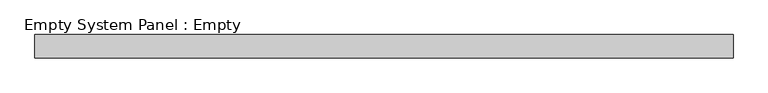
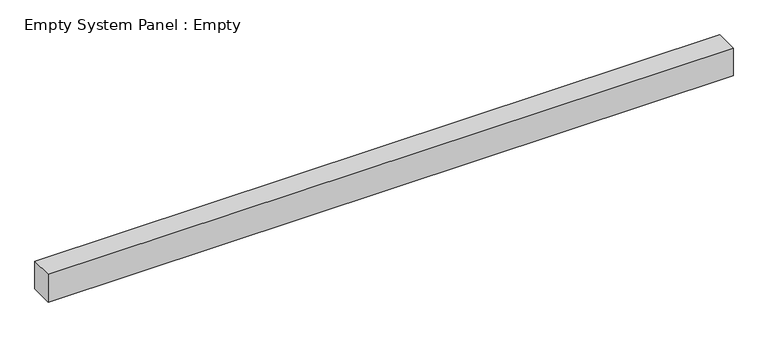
"""IFC4 building model written with IfcOpenShell, lengths in millimetres: plate geometry, Empty System Panel : Empty."""

import ifcopenshell
import ifcopenshell.guid

model = None  # the IFC model being written
_history = None  # IfcOwnerHistory: only IFC2X3 demands one
_inside = {}  # id of a spatial element -> (the spatial element, [elements in it])
_under = {}  # id of a project, library or spatial element -> (it, [spatial elements below it])
_declared = {}  # id of a project -> (the project, [libraries it declares])
_typed = {}  # id of a type object -> (the type object, [elements of that type])
_made_of = {}  # id of a material, layer set ... -> (it, [elements and type objects made of it])


def new_model(schema):
    """Start an empty IFC model of exactly this schema.

    Asked for "IFC4X3", IfcOpenShell would pick the latest addendum, in which some entities
    have other attributes; the version numbers below select the first issue.
    IFC2X3 requires an IfcOwnerHistory on every rooted entity: one is made here for all.
    """
    global model, _history
    if schema == "IFC4X3":
        model = ifcopenshell.file(schema_version=(4, 3, 0, 0))
    else:
        model = ifcopenshell.file(schema=schema)
    _inside.clear()
    _under.clear()
    _declared.clear()
    _typed.clear()
    _made_of.clear()
    _history = None
    if model.schema == "IFC2X3":
        org = make("IfcOrganization", Name="unknown")
        user = make(
            "IfcPersonAndOrganization",
            ThePerson=make("IfcPerson", FamilyName="unknown"),
            TheOrganization=org,
        )
        app = make(
            "IfcApplication",
            ApplicationDeveloper=org,
            Version="unknown",
            ApplicationFullName="unknown",
            ApplicationIdentifier="unknown",
        )
        _history = make(
            "IfcOwnerHistory",
            OwningUser=user,
            OwningApplication=app,
            ChangeAction="ADDED",
            CreationDate=0,
        )
    return model


def make(cls, **values):
    """One entity of the class cls with the attributes given. An attribute that is None is left unset."""
    return model.create_entity(
        cls, **{name: value for name, value in values.items() if value is not None}
    )


def rooted(cls, **values):
    """An entity with a GlobalId (a new one), such as an element, a storey or a relation."""
    return make(cls, GlobalId=ifcopenshell.guid.new(), OwnerHistory=_history, **values)


def si_unit(unit_type, name, prefix=None):
    """IfcSIUnit, for example si_unit("LENGTHUNIT", "METRE", prefix="MILLI")."""
    return make("IfcSIUnit", UnitType=unit_type, Prefix=prefix, Name=name)


def assignment(units):
    """IfcUnitAssignment: the units of a project."""
    return None if units is None else make("IfcUnitAssignment", Units=units)


def point(xyz):
    """IfcCartesianPoint."""
    return None if xyz is None else make("IfcCartesianPoint", Coordinates=xyz)


def direction(xyz):
    """IfcDirection."""
    return None if xyz is None else make("IfcDirection", DirectionRatios=xyz)


def frame(location, z_axis=None, x_axis=None):
    """IfcAxis2Placement3D, a coordinate frame: its origin and axes. An axis left out is left unset."""
    return make(
        "IfcAxis2Placement3D",
        Location=point(location),
        Axis=direction(z_axis),
        RefDirection=direction(x_axis),
    )


def origin():
    """The frame at (0, 0, 0) with its axes left unset."""
    return frame((0.0, 0.0, 0.0))


def origin_with_axes():
    """The frame at (0, 0, 0) with the z axis (0, 0, 1) and the x axis (1, 0, 0) written out."""
    return frame((0.0, 0.0, 0.0), z_axis=(0.0, 0.0, 1.0), x_axis=(1.0, 0.0, 0.0))


def place(relative_to, where):
    """IfcLocalPlacement: puts the frame where relative to a parent placement (None: the world)."""
    return make(
        "IfcLocalPlacement", PlacementRelTo=relative_to, RelativePlacement=where
    )


def context(
    kind, dimensions, precision=None, world=None, true_north=None, identifier=None
):
    """IfcGeometricRepresentationContext, for example the 3D "Model" context."""
    return make(
        "IfcGeometricRepresentationContext",
        ContextIdentifier=identifier,
        ContextType=kind,
        CoordinateSpaceDimension=dimensions,
        Precision=precision,
        WorldCoordinateSystem=world,
        TrueNorth=true_north,
    )


def project(units=None, contexts=None):
    """IfcProject with its units and contexts."""
    return rooted(
        "IfcProject",
        Name="project",
        RepresentationContexts=contexts,
        UnitsInContext=assignment(units),
    )


def spatial(cls, under=None, at=None, **own):
    """A site, building, storey or space (cls), placed at a placement, below another one or the project."""
    s = rooted(cls, ObjectPlacement=at, **own)
    if under is not None:
        _under.setdefault(under.id(), (under, []))[1].append(s)
    return s


def polyline(points):
    """IfcPolyline through the points."""
    return make("IfcPolyline", Points=[point(p) for p in points])


def outline(outer, holes=None, kind="AREA"):
    """IfcArbitraryClosedProfileDef: a profile drawn as a closed curve; with holes, ...WithVoids."""
    if holes is None:
        return make("IfcArbitraryClosedProfileDef", ProfileType=kind, OuterCurve=outer)
    return make(
        "IfcArbitraryProfileDefWithVoids",
        ProfileType=kind,
        OuterCurve=outer,
        InnerCurves=holes,
    )


def extrude(swept, where, along, depth):
    """IfcExtrudedAreaSolid: the profile swept, set in the frame where, extruded along a direction by depth."""
    return make(
        "IfcExtrudedAreaSolid",
        SweptArea=swept,
        Position=where,
        ExtrudedDirection=direction(along),
        Depth=depth,
    )


def shape(context_of_items, identifier, shape_type, items):
    """IfcShapeRepresentation: the items that make up one representation, for example the "Body"."""
    return make(
        "IfcShapeRepresentation",
        ContextOfItems=context_of_items,
        RepresentationIdentifier=identifier,
        RepresentationType=shape_type,
        Items=items,
    )


def source(mapping_origin, context_of_items, identifier, shape_type, items):
    """IfcRepresentationMap: a shape defined once, which mapped items show again and again."""
    return make(
        "IfcRepresentationMap",
        MappingOrigin=mapping_origin,
        MappedRepresentation=shape(context_of_items, identifier, shape_type, items),
    )


def transform(
    local_origin,
    x_axis=None,
    y_axis=None,
    z_axis=None,
    scale=None,
    scale2=None,
    scale3=None,
    uniform=True,
):
    """IfcCartesianTransformationOperator3D, or its non-uniform kind. x_axis, y_axis, z_axis: its Axis1, 2, 3."""
    if uniform:
        return make(
            "IfcCartesianTransformationOperator3D",
            Axis1=direction(x_axis),
            Axis2=direction(y_axis),
            LocalOrigin=point(local_origin),
            Scale=scale,
            Axis3=direction(z_axis),
        )
    return make(
        "IfcCartesianTransformationOperator3DnonUniform",
        Axis1=direction(x_axis),
        Axis2=direction(y_axis),
        LocalOrigin=point(local_origin),
        Scale=scale,
        Axis3=direction(z_axis),
        Scale2=scale2,
        Scale3=scale3,
    )


def mapped(mapping_source, mapping_target):
    """IfcMappedItem: shows the shape of a source again, moved by a transform."""
    return make(
        "IfcMappedItem", MappingSource=mapping_source, MappingTarget=mapping_target
    )


def made_of(thing, what):
    """Note that an element or type object is made of a material, layer set ...; save() writes the relation."""
    if what is not None:
        _made_of.setdefault(what.id(), (what, []))[1].append(thing)
    return thing


def element(
    cls,
    number,
    at=None,
    inside=None,
    cuts=None,
    type_object=None,
    material=None,
    context=None,
    identifier="Body",
    shape_type=None,
    held_by="IfcProductDefinitionShape",
    body=None,
    shapes=None,
    **own,
):
    """One element of the class cls, such as IfcWall. Its Tag is "e" and its number.

    at: its placement. inside: the storey or other place that contains it. cuts: it is an
    opening in that element (IfcRelVoidsElement). A single representation is given by context,
    identifier, shape_type and body (its items); several are given by shapes. held_by: the class
    of the entity that holds the representations. save() writes the other relations.
    """
    e = rooted(cls, Tag="e%d" % number, ObjectPlacement=at, **own)
    if body is not None:
        shapes = [shape(context, identifier, shape_type, body)]
    if shapes is not None:
        e.Representation = make(held_by, Representations=shapes)
    if inside is not None:
        _inside.setdefault(inside.id(), (inside, []))[1].append(e)
    if cuts is not None:
        rooted(
            "IfcRelVoidsElement", RelatingBuildingElement=cuts, RelatedOpeningElement=e
        )
    if type_object is not None:
        _typed.setdefault(type_object.id(), (type_object, []))[1].append(e)
    return made_of(e, material)


def aggregate(whole, parts):
    """IfcRelAggregates: a whole, such as a stair, and the parts it consists of."""
    return rooted("IfcRelAggregates", RelatingObject=whole, RelatedObjects=parts)


def save(model, path):
    """Write the relations noted so far, then the file.

    IfcRelAggregates (storeys below a building ...), IfcRelContainedInSpatialStructure (elements
    in a storey), IfcRelDefinesByType, IfcRelAssociatesMaterial and IfcRelDeclares: one each for
    every whole, place, type object, material and project.
    """
    for whole, parts in _under.values():
        aggregate(whole, parts)
    for where, things in _inside.values():
        rooted(
            "IfcRelContainedInSpatialStructure",
            RelatedElements=things,
            RelatingStructure=where,
        )
    for kind, things in _typed.values():
        rooted("IfcRelDefinesByType", RelatedObjects=things, RelatingType=kind)
    for what, things in _made_of.values():
        rooted("IfcRelAssociatesMaterial", RelatedObjects=things, RelatingMaterial=what)
    for by, libraries in _declared.values():
        rooted("IfcRelDeclares", RelatingContext=by, RelatedDefinitions=libraries)
    model.write(path)


def empty_system_panel_empty_2c259948(model_context):
    return source(origin(), model_context, "Body", "SweptSolid", [
        extrude(outline(polyline([(1500.0, 50.0), (-1500.0, 50.0), (-1500.0, 150.0), (1500.0, 150.0), (1500.0, 50.0)])), origin_with_axes(), (0.0, 0.0, 1.0), 128.37561),
    ])


if __name__ == "__main__":
    model = new_model("IFC4")
    model_context = context("Model", 3, world=origin())
    ifc_project = project(units=[si_unit("LENGTHUNIT", "METRE", prefix="MILLI")], contexts=[model_context])
    site = spatial("IfcSite", under=ifc_project)
    building = spatial("IfcBuilding", under=site)
    placement = place(None, origin())
    empty_system_panel_empty_shape = empty_system_panel_empty_2c259948(model_context)
    element("IfcPlate", 1, ObjectType="Empty System Panel : Empty", at=placement, inside=building, context=model_context, shape_type="MappedRepresentation", body=[
        mapped(empty_system_panel_empty_shape, transform((0.0, 0.0, 0.0), x_axis=(1.0, 0.0, 0.0), y_axis=(0.0, 1.0, 0.0), z_axis=(0.0, 0.0, 1.0))),
    ])
    save(model, "model.ifc")
